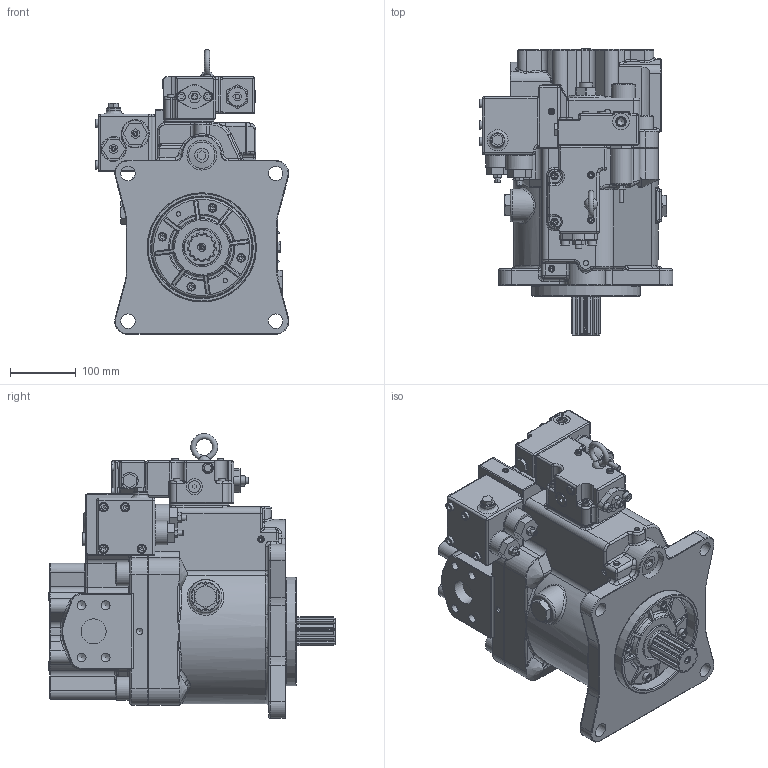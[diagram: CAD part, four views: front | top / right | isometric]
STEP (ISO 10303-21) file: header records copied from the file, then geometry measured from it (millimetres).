
FILE_DESCRIPTION((''),'2;1');
FILE_NAME('C:\Documents and Settings\ACUSER\デスクトップ\K3VL200B-1NRSS-L01-E0.stp','2008-05-13T19:35:29',('ACUSER'),(''),'Autodesk Inventor 2008','Autodesk Inventor 2008','');
FILE_SCHEMA(('AUTOMOTIVE_DESIGN { 1 0 10303 214 1 1 1 1 }'));
Length unit declared in the file: millimetre
Products named in the file (1): K3VL200B-1NRSS-L01-E0
Bounding box: 294.2 x 435 x 432.72 mm (x, y, z)
Volume: 19572253.5 mm3; surface area: 762616.8 mm2
Topology: 1 solids, 27 shells, 2233 faces, 5331 edges, 3229 vertices
Faces by surface type: plane 921, bspline 511, cylinder 463, cone 235, torus 84, sphere 19
Full cylindrical faces by diameter (mm): 6 x9, 6.6 x5, 6.669 x1, 7.5 x1, 8 x14, 10 x12, 11 x11, 13 x10, 16 x2, 18 x1, 20 x1, 22 x1, 27.751 x1, 29.36 x1, 31.8 x1, 36 x6, 36.7 x1, 40 x1, 41 x1, 50 x1, 55 x1, 59 x1, 124 x1, 152 x1, 165.1 x1
Entity records: 94966 total; most frequent: CARTESIAN_POINT 46023, ORIENTED_EDGE 9624, DIRECTION 9504, EDGE_CURVE 4812, AXIS2_PLACEMENT_3D 3635, VERTEX_POINT 3067, EDGE_LOOP 2695, VECTOR 2234
